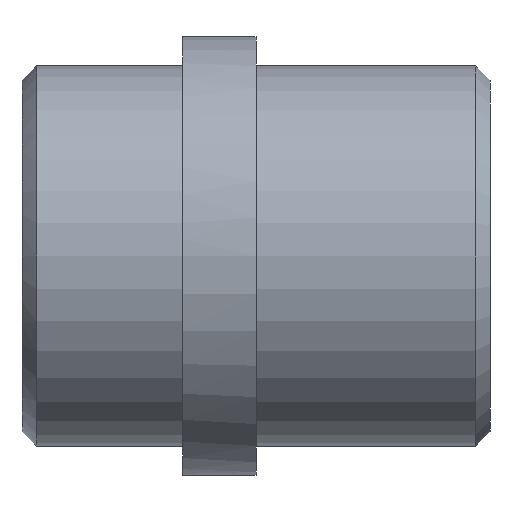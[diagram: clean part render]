
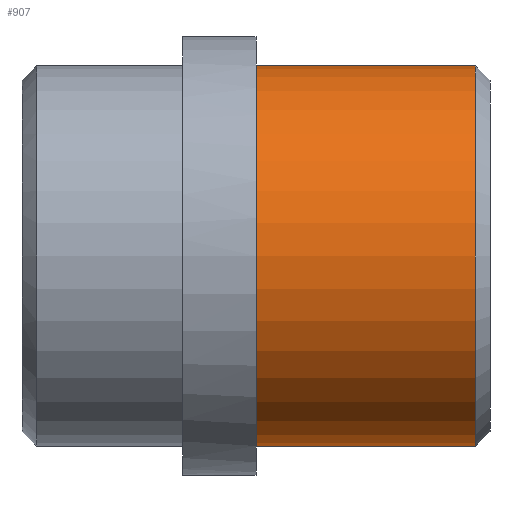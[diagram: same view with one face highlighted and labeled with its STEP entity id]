
A CAD part, front view. The second image highlights one B-rep face of the part: STEP entity #907.
In plain terms, the highlighted cylindrical face has radius 13 mm (diameter 26 mm), a partial arc.
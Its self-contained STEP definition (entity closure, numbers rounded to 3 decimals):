
#773=CARTESIAN_POINT('Vertex',(0.,0.,-13.)) ;
#778=CARTESIAN_POINT('Axis2P3D Location',(0.,0.,0.)) ;
#782=CARTESIAN_POINT('Vertex',(0.,-13.,0.)) ;
#785=CARTESIAN_POINT('Axis2P3D Location',(0.,0.,0.)) ;
#789=CARTESIAN_POINT('Vertex',(0.,0.,13.)) ;
#813=CARTESIAN_POINT('Vertex',(15.,0.,13.)) ;
#820=CARTESIAN_POINT('Vertex',(15.,0.,-13.)) ;
#849=CARTESIAN_POINT('Axis2P3D Location',(15.,0.,0.)) ;
#853=CARTESIAN_POINT('Vertex',(15.,-13.,0.)) ;
#856=CARTESIAN_POINT('Axis2P3D Location',(15.,0.,0.)) ;
#875=CARTESIAN_POINT('Line Origine',(16.,0.,13.)) ;
#880=CARTESIAN_POINT('Line Origine',(16.,0.,-13.)) ;
#894=CARTESIAN_POINT('Axis2P3D Location',(16.,0.,0.)) ;
#779=DIRECTION('Axis2P3D Direction',(1.,0.,-0.)) ;
#786=DIRECTION('Axis2P3D Direction',(1.,0.,-0.)) ;
#850=DIRECTION('Axis2P3D Direction',(-1.,0.,0.)) ;
#857=DIRECTION('Axis2P3D Direction',(-1.,0.,0.)) ;
#876=DIRECTION('Vector Direction',(-1.,0.,0.)) ;
#881=DIRECTION('Vector Direction',(-1.,0.,0.)) ;
#895=DIRECTION('Axis2P3D Direction',(-1.,-0.,-0.)) ;
#896=DIRECTION('Axis2P3D XDirection',(0.,0.,-1.)) ;
#780=AXIS2_PLACEMENT_3D('Circle Axis2P3D',#778,#779,$) ;
#787=AXIS2_PLACEMENT_3D('Circle Axis2P3D',#785,#786,$) ;
#851=AXIS2_PLACEMENT_3D('Circle Axis2P3D',#849,#850,$) ;
#858=AXIS2_PLACEMENT_3D('Circle Axis2P3D',#856,#857,$) ;
#897=AXIS2_PLACEMENT_3D('Cylinder Axis2P3D',#894,#895,#896) ;
#900=ORIENTED_EDGE('',*,*,#884,.T.) ;
#901=ORIENTED_EDGE('',*,*,#860,.F.) ;
#902=ORIENTED_EDGE('',*,*,#855,.F.) ;
#903=ORIENTED_EDGE('',*,*,#879,.T.) ;
#904=ORIENTED_EDGE('',*,*,#791,.T.) ;
#905=ORIENTED_EDGE('',*,*,#784,.T.) ;
#877=VECTOR('Line Direction',#876,1.) ;
#882=VECTOR('Line Direction',#881,1.) ;
#907=ADVANCED_FACE('354-18X32',(#906),#898,.T.) ;
#781=CIRCLE('generated circle',#780,13.) ;
#788=CIRCLE('generated circle',#787,13.) ;
#852=CIRCLE('generated circle',#851,13.) ;
#859=CIRCLE('generated circle',#858,13.) ;
#898=CYLINDRICAL_SURFACE('generated cylinder',#897,13.) ;
#784=EDGE_CURVE('',#783,#774,#781,.T.) ;
#791=EDGE_CURVE('',#790,#783,#788,.T.) ;
#855=EDGE_CURVE('',#814,#854,#852,.F.) ;
#860=EDGE_CURVE('',#854,#821,#859,.F.) ;
#879=EDGE_CURVE('',#814,#790,#878,.T.) ;
#884=EDGE_CURVE('',#774,#821,#883,.F.) ;
#899=EDGE_LOOP('',(#900,#901,#902,#903,#904,#905)) ;
#906=FACE_OUTER_BOUND('',#899,.T.) ;
#878=LINE('Line',#875,#877) ;
#883=LINE('Line',#880,#882) ;
#774=VERTEX_POINT('',#773) ;
#783=VERTEX_POINT('',#782) ;
#790=VERTEX_POINT('',#789) ;
#814=VERTEX_POINT('',#813) ;
#821=VERTEX_POINT('',#820) ;
#854=VERTEX_POINT('',#853) ;
